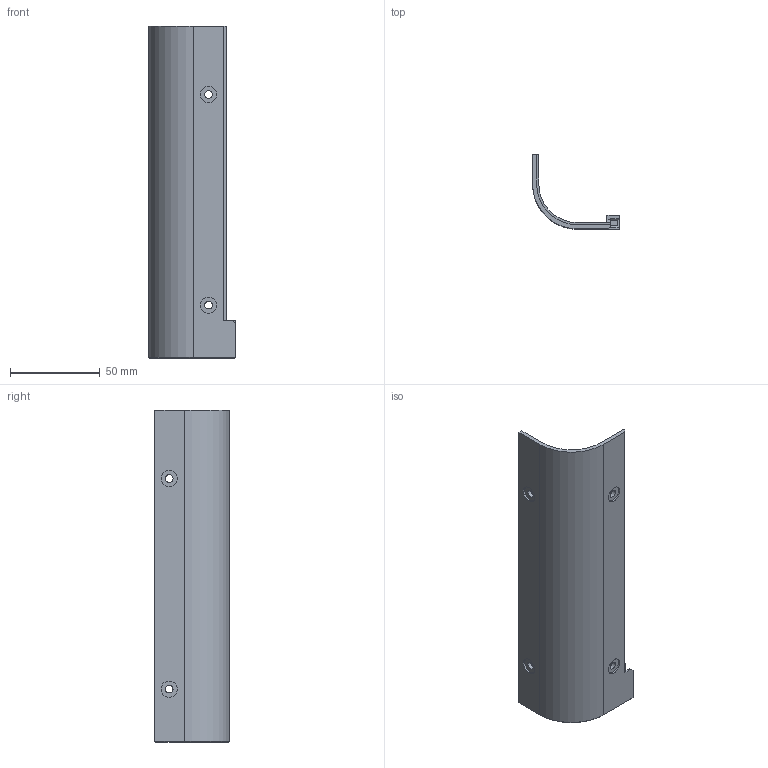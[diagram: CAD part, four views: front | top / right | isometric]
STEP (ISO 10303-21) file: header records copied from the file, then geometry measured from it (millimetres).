
FILE_DESCRIPTION (( 'STEP AP203' ), '1' );
FILE_NAME ('誘啣-A2.STEP', '2024-01-02T07:29:49', ( '' ), ( '' ), 'SwSTEP 2.0', 'SolidWorks 2014', '' );
FILE_SCHEMA (( 'CONFIG_CONTROL_DESIGN' ));
Length unit declared in the file: millimetre
Products named in the file (1): 誘啣-A2
Bounding box: 48.5 x 41.5 x 185.25 mm (x, y, z)
Volume: 45442.3 mm3; surface area: 29060.1 mm2
Topology: 1 solids, 1 shells, 97 faces, 241 edges, 155 vertices
Faces by surface type: plane 64, cylinder 27, cone 3, bspline 3
Entity records: 3401 total; most frequent: CARTESIAN_POINT 972, ORIENTED_EDGE 482, DIRECTION 479, EDGE_CURVE 241, LINE 179, VECTOR 179, VERTEX_POINT 155, AXIS2_PLACEMENT_3D 150
